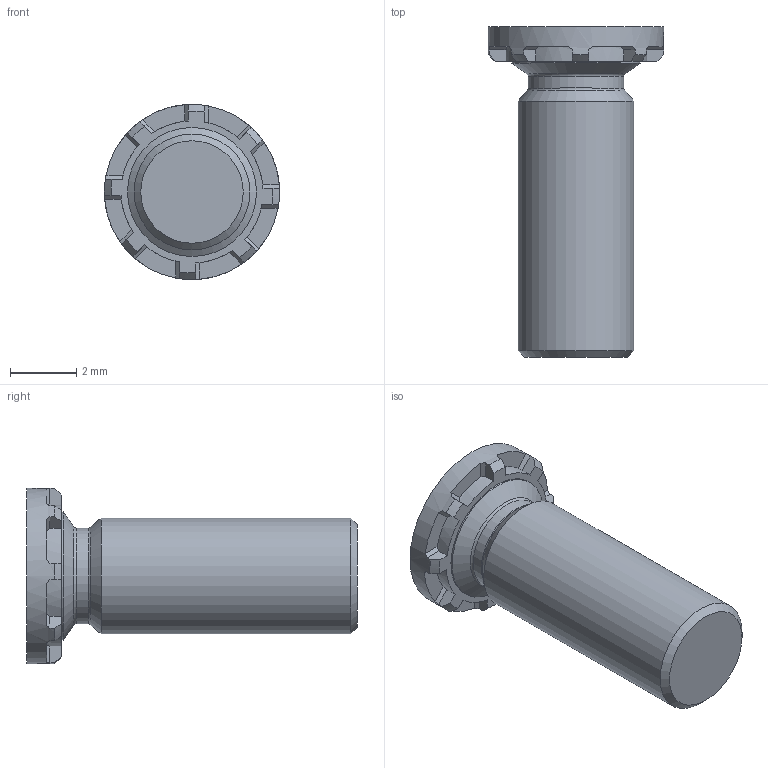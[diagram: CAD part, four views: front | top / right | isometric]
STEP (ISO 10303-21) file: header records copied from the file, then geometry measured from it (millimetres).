
FILE_DESCRIPTION(/* description */ (''),/* implementation_level */ '2;1');
FILE_NAME(/* name */ 'C:\Users\keval.kumar\Desktop\Fastit\Clinch Screw- FH Range\M3.5\Clinch Screw-FH Range_M3.5x10.stp',/* time_stamp */ '2024-03-12T11:54:09+05:00',/* author */ ('keval.kumar'),/* organization */ (''),/* preprocessor_version */ 'ST-DEVELOPER v18.1',/* originating_system */ 'Autodesk Inventor 2022',/* authorisation */ '');
FILE_SCHEMA (('AUTOMOTIVE_DESIGN { 1 0 10303 214 3 1 1 }'));
Length unit declared in the file: millimetre
Products named in the file (1): Clinch Screw-FH Range_M3.5x10
Bounding box: 5.3 x 10 x 5.3 mm (x, y, z)
Volume: 104.6 mm3; surface area: 159.9 mm2
Topology: 1 solids, 1 shells, 68 faces, 193 edges, 128 vertices
Faces by surface type: plane 43, cylinder 12, cone 11, torus 2
Full cylindrical faces by diameter (mm): 2.9 x1, 3.5 x1, 3.9 x1, 5.3 x1
Entity records: 2278 total; most frequent: CARTESIAN_POINT 422, DIRECTION 405, ORIENTED_EDGE 386, EDGE_CURVE 193, AXIS2_PLACEMENT_3D 159, VERTEX_POINT 128, LINE 87, VECTOR 87
